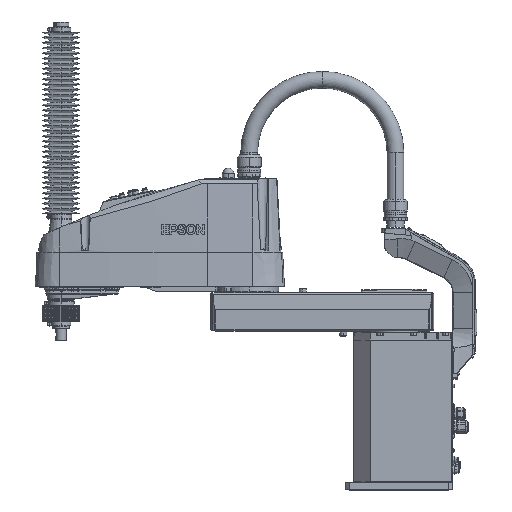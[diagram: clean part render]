
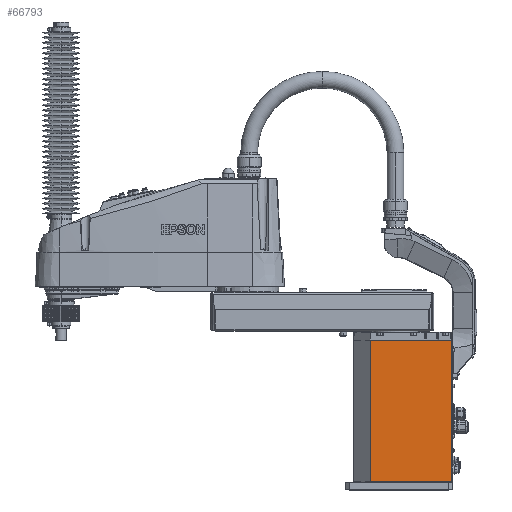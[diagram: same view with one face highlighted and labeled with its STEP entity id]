
A CAD part, top view. The second image highlights one B-rep face of the part: STEP entity #66793.
In plain terms, the highlighted planar face has unit normal (0, 0, 1).
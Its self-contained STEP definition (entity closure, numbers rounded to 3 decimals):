
#828 = CARTESIAN_POINT ( 'NONE',  ( -59.793, 19., 85. ) ) ;
#7196 = DIRECTION ( 'NONE',  ( 0., 0., -1. ) ) ;
#15083 = PLANE ( 'NONE',  #65772 ) ;
#15190 = CARTESIAN_POINT ( 'NONE',  ( 133.3, 357.9, 85. ) ) ;
#17767 = EDGE_CURVE ( 'NONE', #76933, #104330, #110638, .T. ) ;
#37040 = EDGE_CURVE ( 'NONE', #76189, #154141, #120351, .T. ) ;
#44031 = DIRECTION ( 'NONE',  ( 0., -1., 0. ) ) ;
#44383 = CARTESIAN_POINT ( 'NONE',  ( 133.3, 357.9, 85. ) ) ;
#48692 = DIRECTION ( 'NONE',  ( 0., 1., 0. ) ) ;
#53426 = VECTOR ( 'NONE', #48692, 1000. ) ;
#58249 = DIRECTION ( 'NONE',  ( 0., -1., 0. ) ) ;
#65772 = AXIS2_PLACEMENT_3D ( 'NONE', #68366, #7196, #44031 ) ;
#66793 = ADVANCED_FACE ( 'NONE', ( #122560 ), #15083, .F. ) ;
#68366 = CARTESIAN_POINT ( 'NONE',  ( -59.793, 358.2, 85. ) ) ;
#74963 = ORIENTED_EDGE ( 'NONE', *, *, #132767, .F. ) ;
#76189 = VERTEX_POINT ( 'NONE', #141997 ) ;
#76933 = VERTEX_POINT ( 'NONE', #86832 ) ;
#80879 = VECTOR ( 'NONE', #58249, 1000. ) ;
#85862 = DIRECTION ( 'NONE',  ( -1., 0., 0. ) ) ;
#86832 = CARTESIAN_POINT ( 'NONE',  ( -59.793, 19., 85. ) ) ;
#87489 = ORIENTED_EDGE ( 'NONE', *, *, #132125, .T. ) ;
#90690 = LINE ( 'NONE', #44383, #149795 ) ;
#104330 = VERTEX_POINT ( 'NONE', #129099 ) ;
#110638 = LINE ( 'NONE', #828, #53426 ) ;
#115892 = CARTESIAN_POINT ( 'NONE',  ( 133.3, 19., 85. ) ) ;
#120351 = LINE ( 'NONE', #15190, #80879 ) ;
#122560 = FACE_OUTER_BOUND ( 'NONE', #138392, .T. ) ;
#124270 = LINE ( 'NONE', #132964, #127301 ) ;
#127301 = VECTOR ( 'NONE', #85862, 1000. ) ;
#129099 = CARTESIAN_POINT ( 'NONE',  ( -59.793, 357.9, 85. ) ) ;
#132125 = EDGE_CURVE ( 'NONE', #76189, #104330, #90690, .T. ) ;
#132767 = EDGE_CURVE ( 'NONE', #154141, #76933, #124270, .T. ) ;
#132964 = CARTESIAN_POINT ( 'NONE',  ( 133.3, 19., 85. ) ) ;
#138392 = EDGE_LOOP ( 'NONE', ( #146580, #74963, #147911, #87489 ) ) ;
#141997 = CARTESIAN_POINT ( 'NONE',  ( 133.3, 357.9, 85. ) ) ;
#146580 = ORIENTED_EDGE ( 'NONE', *, *, #17767, .F. ) ;
#147911 = ORIENTED_EDGE ( 'NONE', *, *, #37040, .F. ) ;
#149795 = VECTOR ( 'NONE', #151837, 1000. ) ;
#151837 = DIRECTION ( 'NONE',  ( -1., 0., 0. ) ) ;
#154141 = VERTEX_POINT ( 'NONE', #115892 ) ;
